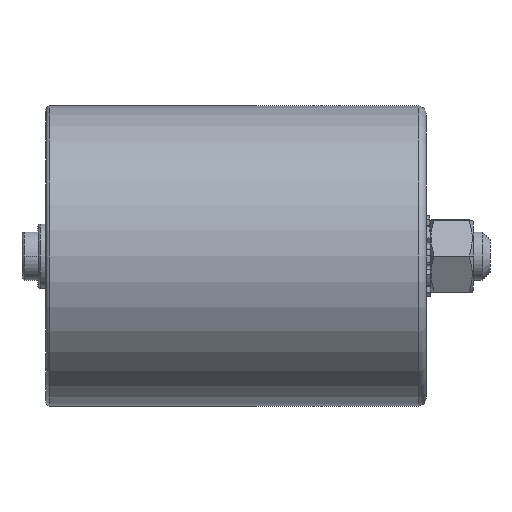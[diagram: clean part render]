
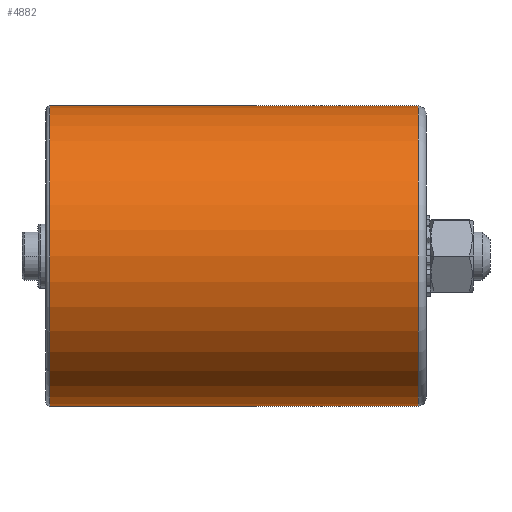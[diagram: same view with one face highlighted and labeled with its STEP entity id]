
A CAD part, left-side view. The second image highlights one B-rep face of the part: STEP entity #4882.
In plain terms, the highlighted cylindrical face has radius 37.5 mm (diameter 75 mm), a partial arc.
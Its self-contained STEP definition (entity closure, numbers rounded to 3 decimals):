
#36 = AXIS2_PLACEMENT_3D ( 'NONE', #1533, #1593, #2850 ) ;
#126 = CIRCLE ( 'NONE', #3742, 37.5 ) ;
#763 = VERTEX_POINT ( 'NONE', #6246 ) ;
#819 = LINE ( 'NONE', #7225, #4165 ) ;
#886 = FACE_OUTER_BOUND ( 'NONE', #5267, .T. ) ;
#977 = VERTEX_POINT ( 'NONE', #2074 ) ;
#1105 = CARTESIAN_POINT ( 'NONE',  ( 0., 2., 0. ) ) ;
#1533 = CARTESIAN_POINT ( 'NONE',  ( 0., 0., 0. ) ) ;
#1593 = DIRECTION ( 'NONE',  ( 0., -1., 0. ) ) ;
#1654 = DIRECTION ( 'NONE',  ( -0.643, 0., -0.766 ) ) ;
#1723 = VERTEX_POINT ( 'NONE', #2161 ) ;
#1796 = VERTEX_POINT ( 'NONE', #7948 ) ;
#1846 = VECTOR ( 'NONE', #2790, 1000. ) ;
#2002 = ORIENTED_EDGE ( 'NONE', *, *, #7866, .T. ) ;
#2074 = CARTESIAN_POINT ( 'NONE',  ( 0., 94., 37.5 ) ) ;
#2126 = DIRECTION ( 'NONE',  ( 0., -1., 0. ) ) ;
#2161 = CARTESIAN_POINT ( 'NONE',  ( 0., 2., -37.5 ) ) ;
#2465 = CARTESIAN_POINT ( 'NONE',  ( 0., 94., 0. ) ) ;
#2663 = CIRCLE ( 'NONE', #4483, 37.5 ) ;
#2790 = DIRECTION ( 'NONE',  ( 0., -1., 0. ) ) ;
#2850 = DIRECTION ( 'NONE',  ( 0., 0., -1. ) ) ;
#2912 = ORIENTED_EDGE ( 'NONE', *, *, #6601, .T. ) ;
#3032 = ORIENTED_EDGE ( 'NONE', *, *, #6033, .T. ) ;
#3071 = EDGE_CURVE ( 'NONE', #763, #1723, #4781, .T. ) ;
#3662 = DIRECTION ( 'NONE',  ( 0., -1., 0. ) ) ;
#3725 = DIRECTION ( 'NONE',  ( -0.643, 0., -0.766 ) ) ;
#3742 = AXIS2_PLACEMENT_3D ( 'NONE', #8130, #3662, #1654 ) ;
#4165 = VECTOR ( 'NONE', #2126, 1000. ) ;
#4483 = AXIS2_PLACEMENT_3D ( 'NONE', #2465, #5717, #3725 ) ;
#4709 = CARTESIAN_POINT ( 'NONE',  ( 0., 2., 37.5 ) ) ;
#4781 = LINE ( 'NONE', #6023, #1846 ) ;
#4882 = ADVANCED_FACE ( 'NONE', ( #886 ), #5464, .T. ) ;
#5267 = EDGE_LOOP ( 'NONE', ( #6283, #2912, #3032, #5961, #2002 ) ) ;
#5271 = VERTEX_POINT ( 'NONE', #4709 ) ;
#5464 = CYLINDRICAL_SURFACE ( 'NONE', #36, 37.5 ) ;
#5717 = DIRECTION ( 'NONE',  ( 0., -1., 0. ) ) ;
#5961 = ORIENTED_EDGE ( 'NONE', *, *, #3071, .T. ) ;
#6023 = CARTESIAN_POINT ( 'NONE',  ( 0., 0., -37.5 ) ) ;
#6033 = EDGE_CURVE ( 'NONE', #1796, #763, #2663, .T. ) ;
#6246 = CARTESIAN_POINT ( 'NONE',  ( 0., 94., -37.5 ) ) ;
#6283 = ORIENTED_EDGE ( 'NONE', *, *, #6881, .F. ) ;
#6292 = DIRECTION ( 'NONE',  ( 0., 1., 0. ) ) ;
#6601 = EDGE_CURVE ( 'NONE', #977, #1796, #126, .T. ) ;
#6881 = EDGE_CURVE ( 'NONE', #977, #5271, #819, .T. ) ;
#7225 = CARTESIAN_POINT ( 'NONE',  ( 0., 0., 37.5 ) ) ;
#7340 = AXIS2_PLACEMENT_3D ( 'NONE', #1105, #6292, #8120 ) ;
#7866 = EDGE_CURVE ( 'NONE', #1723, #5271, #8267, .T. ) ;
#7948 = CARTESIAN_POINT ( 'NONE',  ( -24.105, 94., -28.727 ) ) ;
#8120 = DIRECTION ( 'NONE',  ( 0., 0., -1. ) ) ;
#8130 = CARTESIAN_POINT ( 'NONE',  ( 0., 94., 0. ) ) ;
#8267 = CIRCLE ( 'NONE', #7340, 37.5 ) ;
